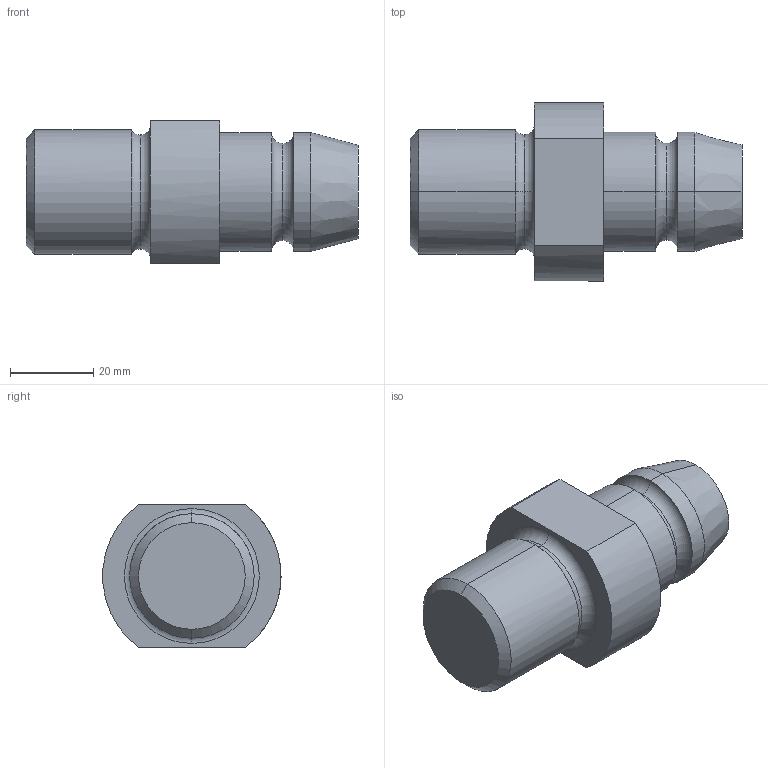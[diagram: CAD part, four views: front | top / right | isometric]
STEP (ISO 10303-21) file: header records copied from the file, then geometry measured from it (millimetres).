
FILE_DESCRIPTION(('CATIA V5 STEP Exchange'),'2;1');
FILE_NAME('C:\Users\Utente\Desktop\IO LAVORO\3D X SITO CF\X SITO\PLASTICA\AGS\AGS3421M30.stp','2021-02-21T19:42:45+00:00',('none'),('none'),'CATIA Version 5 Release 20 GA (IN-10)','CATIA V5 STEP AP203','none');
FILE_SCHEMA(('CONFIG_CONTROL_DESIGN'));
Length unit declared in the file: millimetre
Products named in the file (1): AGS3421M30
Bounding box: 80 x 42.92 x 34.4 mm (x, y, z)
Volume: 61493.8 mm3; surface area: 10393 mm2
Topology: 1 solids, 1 shells, 26 faces, 70 edges, 48 vertices
Faces by surface type: cylinder 8, torus 8, plane 6, cone 4
Entity records: 926 total; most frequent: CARTESIAN_POINT 245, ORIENTED_EDGE 140, DIRECTION 111, EDGE_CURVE 70, AXIS2_PLACEMENT_3D 68, VERTEX_POINT 48, CIRCLE 41, EDGE_LOOP 28
